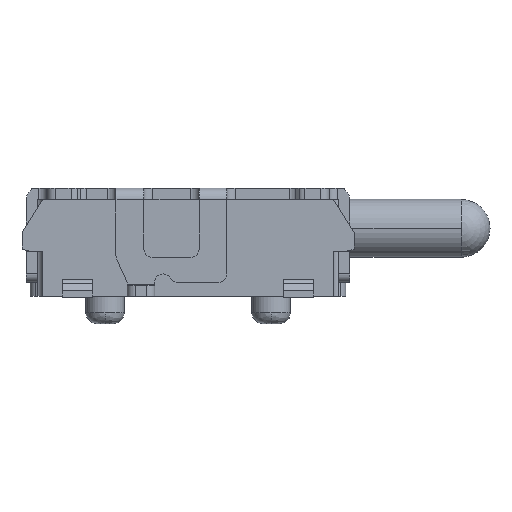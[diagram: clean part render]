
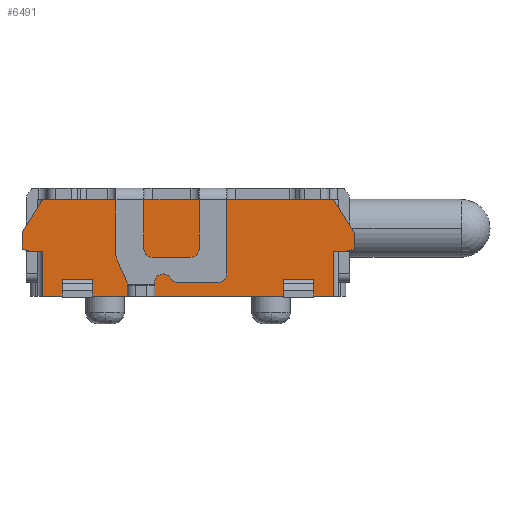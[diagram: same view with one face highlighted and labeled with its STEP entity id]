
A CAD part, front view. The second image highlights one B-rep face of the part: STEP entity #6491.
In plain terms, the highlighted planar face has unit normal (0, -1, 0).
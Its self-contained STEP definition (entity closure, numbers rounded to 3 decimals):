
#33=DIRECTION('',(-1.,0.,0.));
#34=VECTOR('',#33,0.55);
#35=CARTESIAN_POINT('',(-1.725,-1.95,-1.45));
#36=LINE('',#35,#34);
#47=DIRECTION('',(1.,0.,0.));
#48=VECTOR('',#47,0.2);
#49=CARTESIAN_POINT('',(-2.825,-1.95,-0.95));
#50=LINE('',#49,#48);
#54=DIRECTION('',(0.962,0.,-0.275));
#55=VECTOR('',#54,0.182);
#56=CARTESIAN_POINT('',(-3.,-1.95,-0.9));
#57=LINE('',#56,#55);
#61=DIRECTION('',(0.,0.,-1.));
#62=VECTOR('',#61,0.3);
#63=CARTESIAN_POINT('',(-3.,-1.95,-0.6));
#64=LINE('',#63,#62);
#68=DIRECTION('',(-0.53,0.,-0.848));
#69=VECTOR('',#68,0.708);
#70=CARTESIAN_POINT('',(-2.625,-1.95,0.));
#71=LINE('',#70,#69);
#75=DIRECTION('',(-1.,0.,0.));
#76=VECTOR('',#75,5.25);
#77=CARTESIAN_POINT('',(2.625,-1.95,0.));
#78=LINE('',#77,#76);
#82=DIRECTION('',(-0.53,0.,0.848));
#83=VECTOR('',#82,0.708);
#84=CARTESIAN_POINT('',(3.,-1.95,-0.6));
#85=LINE('',#84,#83);
#89=DIRECTION('',(0.,0.,1.));
#90=VECTOR('',#89,0.3);
#91=CARTESIAN_POINT('',(3.,-1.95,-0.9));
#92=LINE('',#91,#90);
#96=DIRECTION('',(0.962,0.,0.275));
#97=VECTOR('',#96,0.182);
#98=CARTESIAN_POINT('',(2.825,-1.95,-0.95));
#99=LINE('',#98,#97);
#103=DIRECTION('',(1.,0.,0.));
#104=VECTOR('',#103,0.2);
#105=CARTESIAN_POINT('',(2.625,-1.95,-0.95));
#106=LINE('',#105,#104);
#110=DIRECTION('',(-1.,0.,0.));
#111=VECTOR('',#110,0.55);
#112=CARTESIAN_POINT('',(-1.725,-1.95,-1.57));
#113=LINE('',#112,#111);
#117=DIRECTION('',(-1.,0.,0.));
#118=VECTOR('',#117,0.55);
#119=CARTESIAN_POINT('',(2.275,-1.95,-1.57));
#120=LINE('',#119,#118);
#138=DIRECTION('',(0.,0.,1.));
#139=VECTOR('',#138,0.8);
#140=CARTESIAN_POINT('',(-2.625,-1.95,-1.75));
#141=LINE('',#140,#139);
#1136=DIRECTION('',(-1.,0.,0.));
#1137=VECTOR('',#1136,5.25);
#1138=CARTESIAN_POINT('',(2.625,-1.95,-1.75));
#1139=LINE('',#1138,#1137);
#1302=DIRECTION('',(0.,0.,-1.));
#1303=VECTOR('',#1302,0.8);
#1304=CARTESIAN_POINT('',(2.625,-1.95,-0.95));
#1305=LINE('',#1304,#1303);
#5008=DIRECTION('',(0.,0.,-1.));
#5009=VECTOR('',#5008,0.12);
#5010=CARTESIAN_POINT('',(-2.275,-1.95,-1.45));
#5011=LINE('',#5010,#5009);
#5096=DIRECTION('',(0.,0.,1.));
#5097=VECTOR('',#5096,0.12);
#5098=CARTESIAN_POINT('',(-1.725,-1.95,-1.57));
#5099=LINE('',#5098,#5097);
#5247=DIRECTION('',(0.,0.,-1.));
#5248=VECTOR('',#5247,0.12);
#5249=CARTESIAN_POINT('',(1.725,-1.95,-1.45));
#5250=LINE('',#5249,#5248);
#5300=DIRECTION('',(-1.,0.,0.));
#5301=VECTOR('',#5300,0.55);
#5302=CARTESIAN_POINT('',(2.275,-1.95,-1.45));
#5303=LINE('',#5302,#5301);
#5321=DIRECTION('',(0.,0.,1.));
#5322=VECTOR('',#5321,0.12);
#5323=CARTESIAN_POINT('',(2.275,-1.95,-1.57));
#5324=LINE('',#5323,#5322);
#5531=CARTESIAN_POINT('',(-1.725,-1.95,-1.45));
#5533=VERTEX_POINT('',#5531);
#5572=CARTESIAN_POINT('',(1.725,-1.95,-1.45));
#5573=CARTESIAN_POINT('',(1.725,-1.95,-1.57));
#5574=VERTEX_POINT('',#5572);
#5575=VERTEX_POINT('',#5573);
#5578=CARTESIAN_POINT('',(2.625,-1.95,-0.95));
#5579=CARTESIAN_POINT('',(2.625,-1.95,-1.75));
#5580=VERTEX_POINT('',#5578);
#5581=VERTEX_POINT('',#5579);
#5596=CARTESIAN_POINT('',(-1.725,-1.95,-1.57));
#5597=VERTEX_POINT('',#5596);
#5755=CARTESIAN_POINT('',(-3.,-1.95,-0.6));
#5756=CARTESIAN_POINT('',(-3.,-1.95,-0.9));
#5757=VERTEX_POINT('',#5755);
#5758=VERTEX_POINT('',#5756);
#5795=CARTESIAN_POINT('',(2.625,-1.95,0.));
#5797=VERTEX_POINT('',#5795);
#5880=CARTESIAN_POINT('',(-2.625,-1.95,0.));
#5881=VERTEX_POINT('',#5880);
#5934=CARTESIAN_POINT('',(2.275,-1.95,-1.57));
#5935=CARTESIAN_POINT('',(2.275,-1.95,-1.45));
#5936=VERTEX_POINT('',#5934);
#5937=VERTEX_POINT('',#5935);
#5988=CARTESIAN_POINT('',(3.,-1.95,-0.9));
#5990=VERTEX_POINT('',#5988);
#6032=CARTESIAN_POINT('',(2.825,-1.95,-0.95));
#6033=VERTEX_POINT('',#6032);
#6108=CARTESIAN_POINT('',(-2.825,-1.95,-0.95));
#6109=CARTESIAN_POINT('',(-2.625,-1.95,-0.95));
#6110=VERTEX_POINT('',#6108);
#6111=VERTEX_POINT('',#6109);
#6183=CARTESIAN_POINT('',(3.,-1.95,-0.6));
#6184=VERTEX_POINT('',#6183);
#6323=CARTESIAN_POINT('',(-2.275,-1.95,-1.45));
#6324=CARTESIAN_POINT('',(-2.275,-1.95,-1.57));
#6325=VERTEX_POINT('',#6323);
#6326=VERTEX_POINT('',#6324);
#6375=CARTESIAN_POINT('',(-2.625,-1.95,-1.75));
#6376=VERTEX_POINT('',#6375);
#6441=CARTESIAN_POINT('',(2.625,-1.95,-1.75));
#6442=DIRECTION('',(0.,1.,0.));
#6443=DIRECTION('',(-1.,0.,0.));
#6444=AXIS2_PLACEMENT_3D('',#6441,#6442,#6443);
#6445=PLANE('',#6444);
#6447=ORIENTED_EDGE('',*,*,#6446,.T.);
#6449=ORIENTED_EDGE('',*,*,#6448,.F.);
#6451=ORIENTED_EDGE('',*,*,#6450,.F.);
#6453=ORIENTED_EDGE('',*,*,#6452,.F.);
#6455=ORIENTED_EDGE('',*,*,#6454,.F.);
#6457=ORIENTED_EDGE('',*,*,#6456,.F.);
#6459=ORIENTED_EDGE('',*,*,#6458,.F.);
#6461=ORIENTED_EDGE('',*,*,#6460,.F.);
#6463=ORIENTED_EDGE('',*,*,#6462,.F.);
#6465=ORIENTED_EDGE('',*,*,#6464,.F.);
#6467=ORIENTED_EDGE('',*,*,#6466,.T.);
#6469=ORIENTED_EDGE('',*,*,#6468,.T.);
#6470=EDGE_LOOP('',(#6447,#6449,#6451,#6453,#6455,#6457,#6459,#6461,#6463,#6465,
#6467,#6469));
#6471=FACE_OUTER_BOUND('',#6470,.F.);
#6473=ORIENTED_EDGE('',*,*,#6472,.F.);
#6475=ORIENTED_EDGE('',*,*,#6474,.T.);
#6476=ORIENTED_EDGE('',*,*,#6418,.T.);
#6478=ORIENTED_EDGE('',*,*,#6477,.T.);
#6479=EDGE_LOOP('',(#6473,#6475,#6476,#6478));
#6480=FACE_BOUND('',#6479,.F.);
#6482=ORIENTED_EDGE('',*,*,#6481,.F.);
#6484=ORIENTED_EDGE('',*,*,#6483,.T.);
#6486=ORIENTED_EDGE('',*,*,#6485,.T.);
#6488=ORIENTED_EDGE('',*,*,#6487,.T.);
#6489=EDGE_LOOP('',(#6482,#6484,#6486,#6488));
#6490=FACE_BOUND('',#6489,.F.);
#6418=EDGE_CURVE('',#5533,#6325,#36,.T.);
#6446=EDGE_CURVE('',#6376,#6111,#141,.T.);
#6448=EDGE_CURVE('',#6110,#6111,#50,.T.);
#6450=EDGE_CURVE('',#5758,#6110,#57,.T.);
#6452=EDGE_CURVE('',#5757,#5758,#64,.T.);
#6454=EDGE_CURVE('',#5881,#5757,#71,.T.);
#6456=EDGE_CURVE('',#5797,#5881,#78,.T.);
#6458=EDGE_CURVE('',#6184,#5797,#85,.T.);
#6460=EDGE_CURVE('',#5990,#6184,#92,.T.);
#6462=EDGE_CURVE('',#6033,#5990,#99,.T.);
#6464=EDGE_CURVE('',#5580,#6033,#106,.T.);
#6466=EDGE_CURVE('',#5580,#5581,#1305,.T.);
#6468=EDGE_CURVE('',#5581,#6376,#1139,.T.);
#6472=EDGE_CURVE('',#5597,#6326,#113,.T.);
#6474=EDGE_CURVE('',#5597,#5533,#5099,.T.);
#6477=EDGE_CURVE('',#6325,#6326,#5011,.T.);
#6481=EDGE_CURVE('',#5936,#5575,#120,.T.);
#6483=EDGE_CURVE('',#5936,#5937,#5324,.T.);
#6485=EDGE_CURVE('',#5937,#5574,#5303,.T.);
#6487=EDGE_CURVE('',#5574,#5575,#5250,.T.);
#6491=ADVANCED_FACE('',(#6471,#6480,#6490),#6445,.F.);
